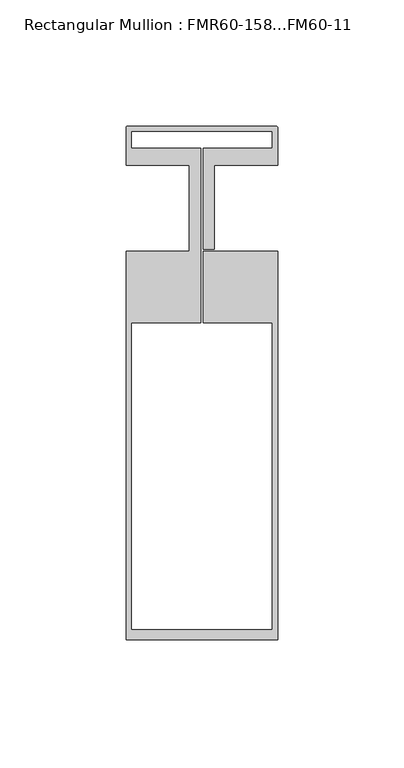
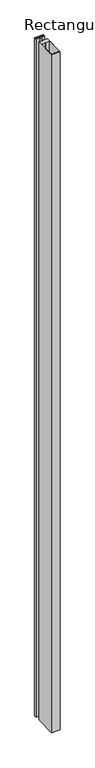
"""IFC4 building model written with IfcOpenShell, lengths in millimetres: member geometry, Rectangular Mullion : FMR60-158...FM60-11."""

from ifc_helpers import new_model, si_unit, point, frame, frame_2d, origin, place, context, project, spatial, polyline, circle_curve, trimmed, segment, composite_curve, outline, extrude, source, transform, mapped, element, save


def rectangular_mullion_fmr60_158_fm60_11_8e278cfa(model_context):
    return source(origin(), model_context, "Body", "SweptSolid", [
        extrude(outline(composite_curve([segment(polyline([(-29.5, 32.5117899), (29.5, 32.5117899)]), True, "CONTINUOUS"), segment(trimmed(circle_curve(frame_2d((29.5, 32.0117899)), 0.5), [point((29.5, 32.5117899))], [point((30.0, 32.0117899))], False, "CARTESIAN"), True, "CONTINUOUS"), segment(polyline([(30.0, 32.0117899), (30.0, 17.0), (5.0, 17.0), (5.0, -16.2), (0.5, -16.2), (0.5, 23.8476589), (28.0000412, 23.8476589), (28.0000412, 30.5117899), (-28.0000412, 30.5117899), (-28.0000412, 23.8476589), (-0.5, 23.8476589), (-0.5, -45.5034642), (-28.0, -45.5034642), (-28.0, -167.009342), (28.0, -167.009342), (28.0, -45.5034642), (0.5, -45.5034642), (0.5, -17.0), (30.0, -17.0), (30.0, -171.009342), (-30.0, -171.009342), (-30.0, -17.0), (-5.0, -17.0), (-5.0, 17.0), (-30.0, 17.0), (-30.0, 32.0117899)]), True, "CONTINUOUS"), segment(trimmed(circle_curve(frame_2d((-29.5, 32.0117899)), 0.5), [point((-30.0, 32.0117899))], [point((-29.5, 32.5117899))], False, "CARTESIAN"), True, "CONTINUOUS")], self_intersect=False)), frame((0.0, 0.0, -5000.0), z_axis=(0.0, 0.0, 1.0), x_axis=(1.0, 0.0, 0.0)), (0.0, 0.0, 1.0), 5000.0),
    ])


if __name__ == "__main__":
    model = new_model("IFC4")
    model_context = context("Model", 3, world=origin())
    ifc_project = project(units=[si_unit("LENGTHUNIT", "METRE", prefix="MILLI")], contexts=[model_context])
    site = spatial("IfcSite", under=ifc_project)
    building = spatial("IfcBuilding", under=site)
    placement = place(None, origin())
    rectangular_mullion_fmr60_158_fm60_11_shape = rectangular_mullion_fmr60_158_fm60_11_8e278cfa(model_context)
    element("IfcMember", 1, ObjectType="Rectangular Mullion : FMR60-158...FM60-11", at=placement, inside=building, context=model_context, shape_type="MappedRepresentation", body=[
        mapped(rectangular_mullion_fmr60_158_fm60_11_shape, transform((0.0, 0.0, 0.0), x_axis=(1.0, 0.0, 0.0), y_axis=(0.0, 1.0, 0.0), z_axis=(0.0, 0.0, 1.0))),
    ])
    save(model, "model.ifc")
